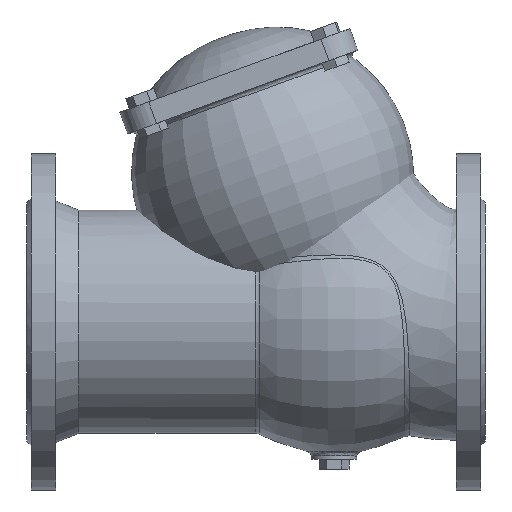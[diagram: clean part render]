
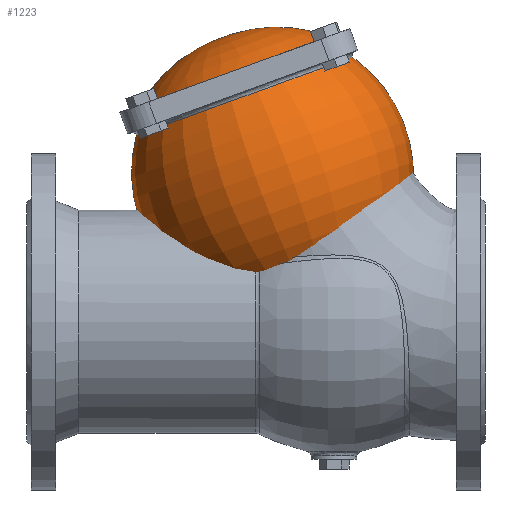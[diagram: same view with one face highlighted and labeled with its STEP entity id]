
A CAD part, front view. The second image highlights one B-rep face of the part: STEP entity #1223.
In plain terms, the highlighted toroidal (fillet/blend) face has major radius 2.97 mm and minor radius 95 mm.
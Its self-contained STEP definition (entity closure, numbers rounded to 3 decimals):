
#1223=ADVANCED_FACE('',(#4790),#4792,.T.);
#4790=FACE_OUTER_BOUND('',#4791,.T.);
#4791=EDGE_LOOP('',(#5777));
#4792=DEGENERATE_TOROIDAL_SURFACE('',#4793,2.97,95.,.T.);
#4793=AXIS2_PLACEMENT_3D('',#4794,#4795,#4796);
#4794=CARTESIAN_POINT('',(19.79,0.,96.684));
#4795=DIRECTION('',(0.342,0.,-0.94));
#4796=DIRECTION('',(-0.94,0.,-0.342));
#5777=ORIENTED_EDGE('',*,*,#6175,.T.);
#6175=EDGE_CURVE('',#6756,#6756,#6757,.F.);
#6756=VERTEX_POINT('',#9561);
#6757=CIRCLE('',#9562,65.);
#9561=CARTESIAN_POINT('',(-65.899,0.,142.067));
#9562=AXIS2_PLACEMENT_3D('',#9563,#9564,#9565);
#9563=CARTESIAN_POINT('',(-4.819,0.,164.298));
#9564=DIRECTION('',(0.342,0.,-0.94));
#9565=DIRECTION('',(-0.94,0.,-0.342));
